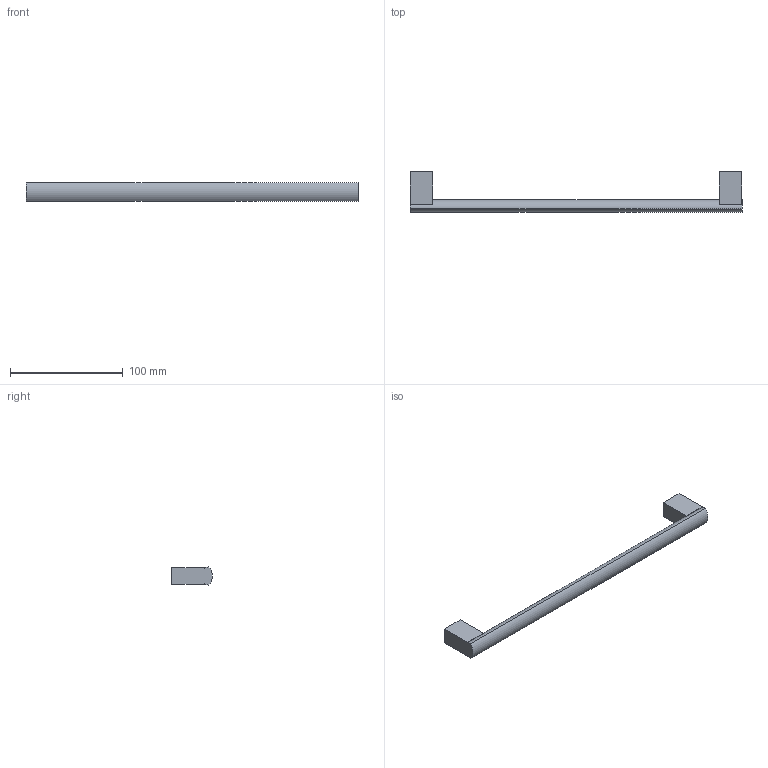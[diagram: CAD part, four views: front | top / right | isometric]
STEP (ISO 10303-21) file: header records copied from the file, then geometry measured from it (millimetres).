
FILE_DESCRIPTION( ( 'STEP AP214' ), '1' );
FILE_NAME( 'D:/Shahbaz D&D/Task/Check and correct handles with 3 drill sockets/Clivia/115357.stp', '2023-02-20T10:44:18', ( '' ), ( '' ), ' ', 'PARTsolutions', ' ' );
FILE_SCHEMA( ( 'AUTOMOTIVE_DESIGN { 1 0 10303 214 1 1 1 1 }' ) );
Length unit declared in the file: millimetre
Products named in the file (1): _115357
Bounding box: 294 x 35.96 x 16 mm (x, y, z)
Volume: 54850.4 mm3; surface area: 16868.5 mm2
Topology: 1 solids, 1 shells, 21 faces, 48 edges, 32 vertices
Faces by surface type: plane 17, cylinder 4
Full cylindrical faces by diameter (mm): 4 x2
Entity records: 768 total; most frequent: DIRECTION 102, CARTESIAN_POINT 100, ORIENTED_EDGE 92, EDGE_CURVE 46, AXIS2_PLACEMENT_3D 34, LINE 34, VECTOR 34, VERTEX_POINT 32
